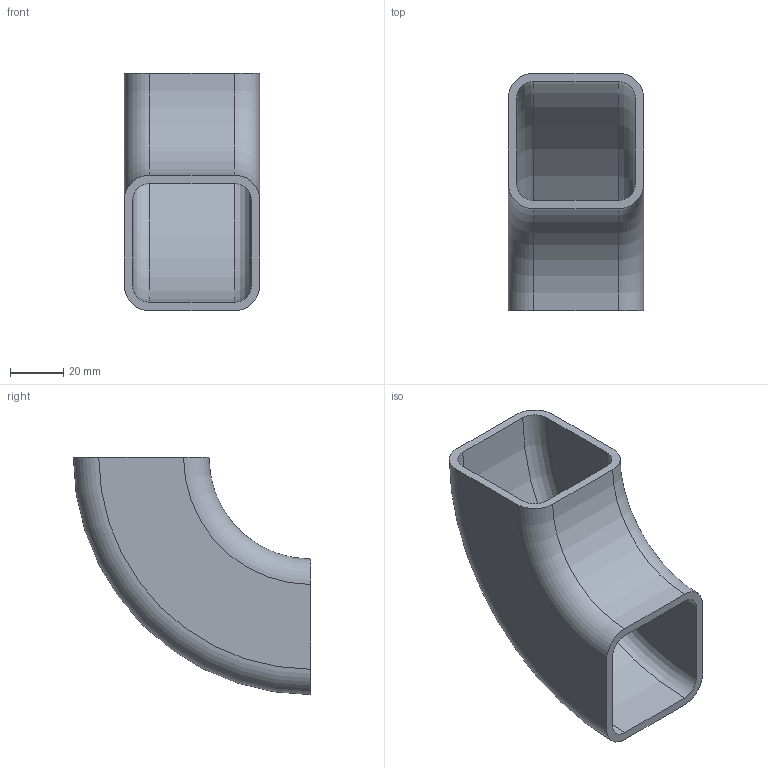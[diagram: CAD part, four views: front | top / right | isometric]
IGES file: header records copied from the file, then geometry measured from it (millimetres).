
Global section: file name: No Iges File Name specified; native system: Autodesk Inventor 2011; preprocessor: AutoDesk Inventor Iges Exporter R2011; author: bamfomg; date: 20110321.072821; units: inch
Bounding box: 50.8 x 88.9 x 88.9 mm (x, y, z)
Volume: 56014.2 mm3; surface area: 36407.7 mm2
Topology: 1 solids, 1 shells, 18 faces, 48 edges, 32 vertices
Faces by surface type: revolution 6, plane 6, torus 4, cylinder 2
